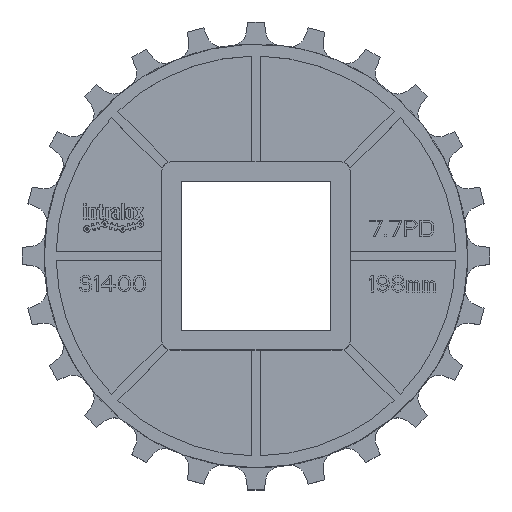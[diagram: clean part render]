
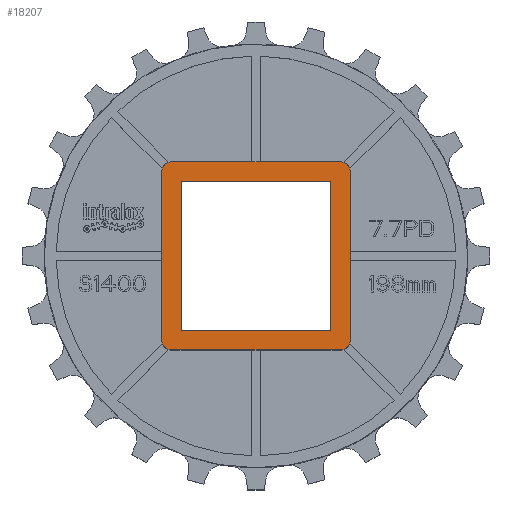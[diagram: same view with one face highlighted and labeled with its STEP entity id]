
A CAD part, top view. The second image highlights one B-rep face of the part: STEP entity #18207.
In plain terms, the highlighted planar face has unit normal (0, 0, 1).
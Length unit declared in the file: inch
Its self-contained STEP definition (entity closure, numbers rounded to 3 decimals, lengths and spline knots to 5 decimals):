
#2474=CARTESIAN_POINT('',(-1.42007,1.42007,0.74));
#2475=DIRECTION('',(0.,0.,1.));
#2476=DIRECTION('',(0.,1.,0.));
#2477=AXIS2_PLACEMENT_3D('',#2474,#2475,#2476);
#2479=DIRECTION('',(-1.,0.,0.));
#2480=VECTOR('',#2479,2.84014);
#2481=CARTESIAN_POINT('',(1.42007,1.57007,0.74));
#2482=LINE('',#2481,#2480);
#2483=CARTESIAN_POINT('',(1.42007,1.42007,0.74));
#2484=DIRECTION('',(0.,0.,1.));
#2485=DIRECTION('',(1.,0.,0.));
#2486=AXIS2_PLACEMENT_3D('',#2483,#2484,#2485);
#2488=DIRECTION('',(0.,1.,0.));
#2489=VECTOR('',#2488,2.84014);
#2490=CARTESIAN_POINT('',(1.57007,-1.42007,0.74));
#2491=LINE('',#2490,#2489);
#2492=CARTESIAN_POINT('',(1.42007,-1.42007,0.74));
#2493=DIRECTION('',(0.,0.,1.));
#2494=DIRECTION('',(0.,-1.,0.));
#2495=AXIS2_PLACEMENT_3D('',#2492,#2493,#2494);
#2497=DIRECTION('',(1.,0.,0.));
#2498=VECTOR('',#2497,2.84014);
#2499=CARTESIAN_POINT('',(-1.42007,-1.57007,0.74));
#2500=LINE('',#2499,#2498);
#2501=CARTESIAN_POINT('',(-1.42007,-1.42007,0.74));
#2502=DIRECTION('',(0.,0.,1.));
#2503=DIRECTION('',(-1.,0.,0.));
#2504=AXIS2_PLACEMENT_3D('',#2501,#2502,#2503);
#2506=DIRECTION('',(0.,-1.,0.));
#2507=VECTOR('',#2506,2.84014);
#2508=CARTESIAN_POINT('',(-1.57007,1.42007,0.74));
#2509=LINE('',#2508,#2507);
#2510=DIRECTION('',(1.,0.,0.));
#2511=VECTOR('',#2510,2.5);
#2512=CARTESIAN_POINT('',(-1.25,-1.25,0.74));
#2513=LINE('',#2512,#2511);
#2514=DIRECTION('',(0.,1.,0.));
#2515=VECTOR('',#2514,2.5);
#2516=CARTESIAN_POINT('',(1.25,-1.25,0.74));
#2517=LINE('',#2516,#2515);
#2518=DIRECTION('',(-1.,0.,0.));
#2519=VECTOR('',#2518,2.5);
#2520=CARTESIAN_POINT('',(1.25,1.25,0.74));
#2521=LINE('',#2520,#2519);
#2522=DIRECTION('',(0.,-1.,0.));
#2523=VECTOR('',#2522,2.5);
#2524=CARTESIAN_POINT('',(-1.25,1.25,0.74));
#2525=LINE('',#2524,#2523);
#11070=CARTESIAN_POINT('',(-1.57007,1.42007,0.74));
#11071=CARTESIAN_POINT('',(-1.57007,-1.42007,0.74));
#11072=VERTEX_POINT('',#11070);
#11073=VERTEX_POINT('',#11071);
#11074=CARTESIAN_POINT('',(-1.42007,-1.57007,0.74));
#11075=CARTESIAN_POINT('',(1.42007,-1.57007,0.74));
#11076=VERTEX_POINT('',#11074);
#11077=VERTEX_POINT('',#11075);
#11078=CARTESIAN_POINT('',(1.57007,-1.42007,0.74));
#11079=CARTESIAN_POINT('',(1.57007,1.42007,0.74));
#11080=VERTEX_POINT('',#11078);
#11081=VERTEX_POINT('',#11079);
#11082=CARTESIAN_POINT('',(1.42007,1.57007,0.74));
#11083=CARTESIAN_POINT('',(-1.42007,1.57007,0.74));
#11084=VERTEX_POINT('',#11082);
#11085=VERTEX_POINT('',#11083);
#11102=CARTESIAN_POINT('',(-1.25,-1.25,0.74));
#11103=CARTESIAN_POINT('',(1.25,-1.25,0.74));
#11104=VERTEX_POINT('',#11102);
#11105=VERTEX_POINT('',#11103);
#11106=CARTESIAN_POINT('',(1.25,1.25,0.74));
#11107=VERTEX_POINT('',#11106);
#11108=CARTESIAN_POINT('',(-1.25,1.25,0.74));
#11109=VERTEX_POINT('',#11108);
#18183=CARTESIAN_POINT('',(0.,0.,0.74));
#18184=DIRECTION('',(0.,0.,1.));
#18185=DIRECTION('',(1.,0.,0.));
#18186=AXIS2_PLACEMENT_3D('',#18183,#18184,#18185);
#18187=PLANE('',#18186);
#18188=ORIENTED_EDGE('',*,*,#18065,.F.);
#18189=ORIENTED_EDGE('',*,*,#17981,.F.);
#18190=ORIENTED_EDGE('',*,*,#17896,.F.);
#18191=ORIENTED_EDGE('',*,*,#17811,.F.);
#18192=ORIENTED_EDGE('',*,*,#17726,.F.);
#18193=ORIENTED_EDGE('',*,*,#17641,.F.);
#18194=ORIENTED_EDGE('',*,*,#17556,.F.);
#18195=ORIENTED_EDGE('',*,*,#17471,.F.);
#18196=EDGE_LOOP('',(#18188,#18189,#18190,#18191,#18192,#18193,#18194,#18195));
#18197=FACE_OUTER_BOUND('',#18196,.F.);
#18198=ORIENTED_EDGE('',*,*,#18173,.T.);
#18200=ORIENTED_EDGE('',*,*,#18199,.T.);
#18202=ORIENTED_EDGE('',*,*,#18201,.T.);
#18204=ORIENTED_EDGE('',*,*,#18203,.T.);
#18205=EDGE_LOOP('',(#18198,#18200,#18202,#18204));
#18206=FACE_BOUND('',#18205,.F.);
#18207=ADVANCED_FACE('',(#18197,#18206),#18187,.T.);
#2478=CIRCLE('',#2477,0.15);
#2487=CIRCLE('',#2486,0.15);
#2496=CIRCLE('',#2495,0.15);
#2505=CIRCLE('',#2504,0.15);
#17471=EDGE_CURVE('',#11072,#11073,#2509,.T.);
#17556=EDGE_CURVE('',#11073,#11076,#2505,.T.);
#17641=EDGE_CURVE('',#11076,#11077,#2500,.T.);
#17726=EDGE_CURVE('',#11077,#11080,#2496,.T.);
#17811=EDGE_CURVE('',#11080,#11081,#2491,.T.);
#17896=EDGE_CURVE('',#11081,#11084,#2487,.T.);
#17981=EDGE_CURVE('',#11084,#11085,#2482,.T.);
#18065=EDGE_CURVE('',#11085,#11072,#2478,.T.);
#18173=EDGE_CURVE('',#11104,#11105,#2513,.T.);
#18199=EDGE_CURVE('',#11105,#11107,#2517,.T.);
#18201=EDGE_CURVE('',#11107,#11109,#2521,.T.);
#18203=EDGE_CURVE('',#11109,#11104,#2525,.T.);
